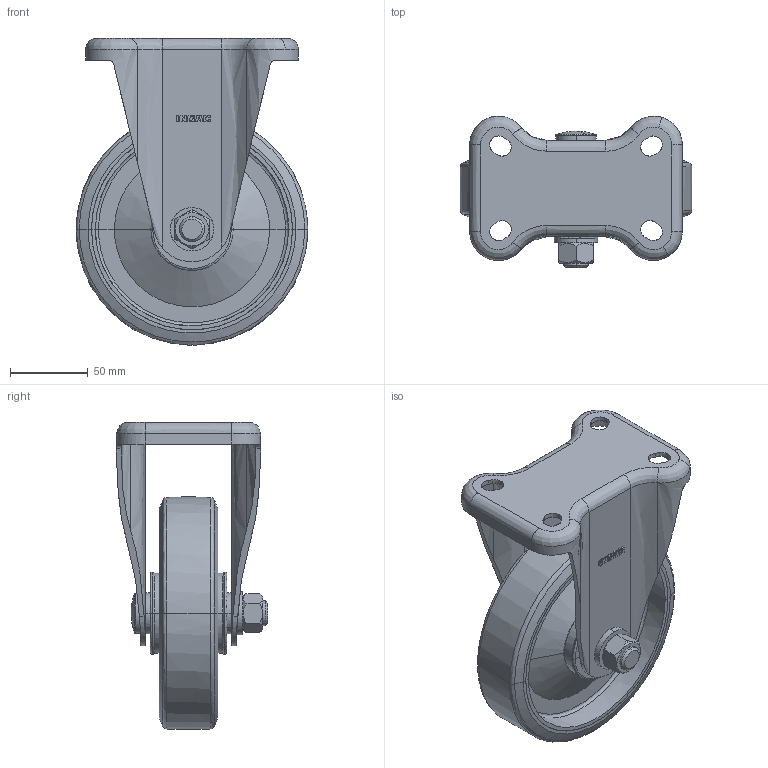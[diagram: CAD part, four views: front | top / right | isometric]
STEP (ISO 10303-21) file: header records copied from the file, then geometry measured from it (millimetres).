
FILE_DESCRIPTION (( 'STEP AP214' ), '1' );
FILE_NAME ('P-150WK-stp.STEP', '2022-12-26T03:00:45', ( 'sakai' ), ( 'Hewlett-Packard' ), 'SwSTEP 2.0', 'SolidWorks 2010', '' );
FILE_SCHEMA (( 'AUTOMOTIVE_DESIGN' ));
Length unit declared in the file: millimetre
Products named in the file (9): P150WK-10; P150WK-15; P150WK-20; P150WK-25; P150WK-30; P150WK-35; P150WK-40; P150WK-45; P-150WK-stp
Assembly tree (8 placements, depth 2):
  P-150WK-stp
    P150WK-15
    P150WK-35
    P150WK-30
    P150WK-20
    P150WK-40
    P150WK-10
    P150WK-25
    P150WK-45
Bounding box: 149.22 x 97.5 x 197.94 mm (x, y, z)
Volume: 410726 mm3; surface area: 233400.1 mm2
Topology: 15 solids, 15 shells, 535 faces, 1616 edges, 1096 vertices
Faces by surface type: bspline 421, plane 114
Entity records: 73068 total; most frequent: CARTESIAN_POINT 58723, ORIENTED_EDGE 3228, EDGE_CURVE 1614, B_SPLINE_CURVE_WITH_KNOTS 1230, VERTEX_POINT 1096, DIRECTION 634, EDGE_LOOP 560, ADVANCED_FACE 535
